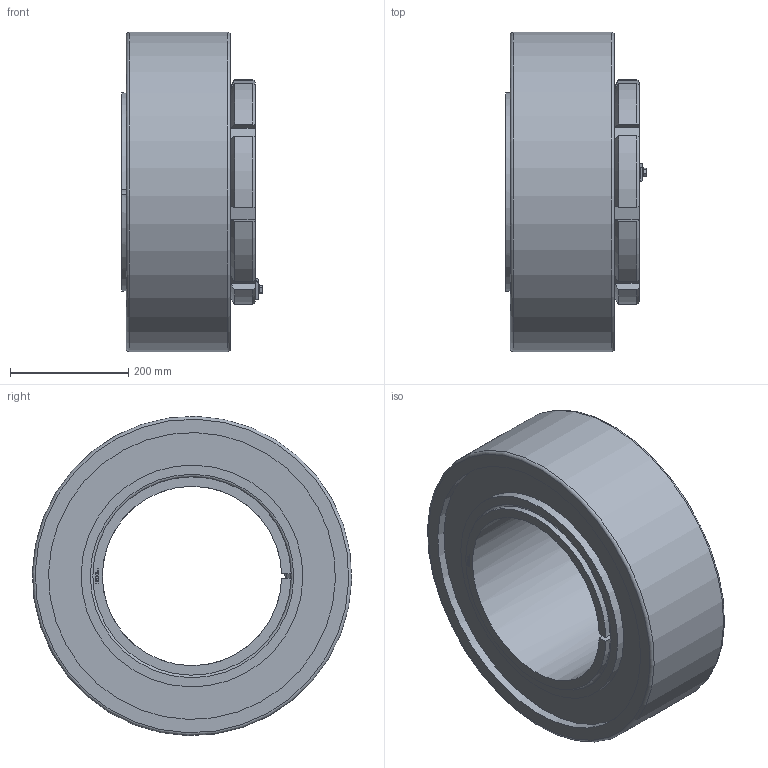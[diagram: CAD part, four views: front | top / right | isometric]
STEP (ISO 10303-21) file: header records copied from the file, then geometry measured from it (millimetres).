
FILE_DESCRIPTION( ( 'STEP AP203' ), ' ' );
FILE_NAME( 'p:/temp/worker_15/2480_2508/app_90_02016102822435721613038192d056f_000000_00_00_000000/format_0/BGL HA 3164 TL+23164K.stp', '2016-10-28T20:44:00', ( '' ), ( '' ), ' ', 'PARTsolutions', ' ' );
FILE_SCHEMA( ( 'CONFIG_CONTROL_DESIGN' ) );
Length unit declared in the file: millimetre
Products named in the file (6): BGL HA 3164 TL+23164K; _BGLHA3164TLB; _BGL HM 3064; _BGLHA3164TL+HA-23164K; _BGL MS 3064-BGL MS 3068part; _BGL MS 3064-BGL MS 3068HHS
Assembly tree (5 placements, depth 2):
  BGL HA 3164 TL+23164K
    _BGLHA3164TLB
    _BGL HM 3064
    _BGLHA3164TL+HA-23164K
    _BGL MS 3064-BGL MS 3068part
    _BGL MS 3064-BGL MS 3068HHS
Bounding box: 238.05 x 539.82 x 539.82 mm (x, y, z)
Volume: 27111600.8 mm3; surface area: 1470263.2 mm2
Topology: 5 solids, 5 shells, 351 faces, 899 edges, 589 vertices
Faces by surface type: plane 230, cylinder 79, cone 38, torus 4
Full cylindrical faces by diameter (mm): 8 x9, 9 x1, 14.8 x1, 315 x1, 375 x2, 485 x2, 540 x1
Entity records: 10762 total; most frequent: CARTESIAN_POINT 2104, DIRECTION 1729, ORIENTED_EDGE 1726, EDGE_CURVE 863, VERTEX_POINT 586, AXIS2_PLACEMENT_3D 577, LINE 575, VECTOR 575
